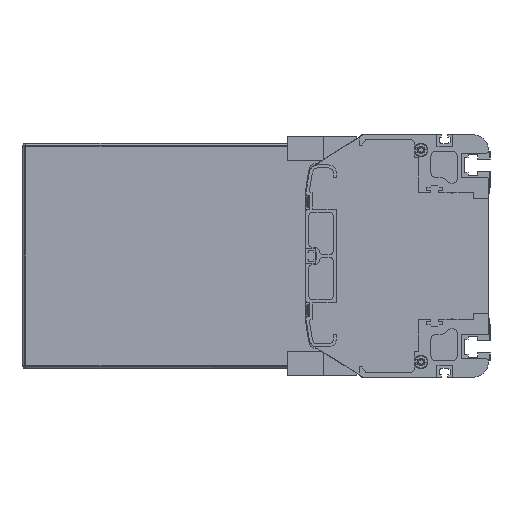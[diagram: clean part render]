
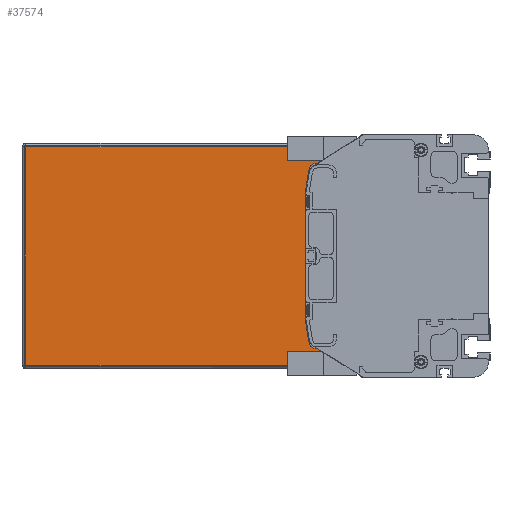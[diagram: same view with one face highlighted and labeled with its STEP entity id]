
A CAD part, left-side view. The second image highlights one B-rep face of the part: STEP entity #37574.
In plain terms, the highlighted planar face has unit normal (-1, 0, 0).
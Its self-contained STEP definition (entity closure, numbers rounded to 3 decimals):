
#586=DIRECTION('',(0.,-1.,0.));
#587=VECTOR('',#586,220.5);
#588=CARTESIAN_POINT('',(1686.5,306.5,-72.));
#589=LINE('',#588,#587);
#6548=DIRECTION('',(0.,-1.,0.));
#6549=VECTOR('',#6548,28.728);
#6550=CARTESIAN_POINT('',(1686.5,114.728,61.));
#6551=LINE('',#6550,#6549);
#6594=DIRECTION('',(0.,1.,0.));
#6595=VECTOR('',#6594,28.728);
#6596=CARTESIAN_POINT('',(1686.5,86.,-61.));
#6597=LINE('',#6596,#6595);
#6607=DIRECTION('',(0.,0.,-1.));
#6608=VECTOR('',#6607,11.);
#6609=CARTESIAN_POINT('',(1686.5,86.,-61.));
#6610=LINE('',#6609,#6608);
#6616=DIRECTION('',(0.,0.,-1.));
#6617=VECTOR('',#6616,11.);
#6618=CARTESIAN_POINT('',(1686.5,86.,72.));
#6619=LINE('',#6618,#6617);
#14441=CARTESIAN_POINT('',(1686.5,114.728,56.));
#14442=DIRECTION('',(-1.,0.,0.));
#14443=DIRECTION('',(0.,0.,1.));
#14444=AXIS2_PLACEMENT_3D('',#14441,#14442,#14443);
#14446=DIRECTION('',(0.,0.156,-0.988));
#14447=VECTOR('',#14446,14.963);
#14448=CARTESIAN_POINT('',(1686.5,119.666,56.78));
#14449=LINE('',#14448,#14447);
#14450=DIRECTION('',(0.,-0.156,-0.988));
#14451=VECTOR('',#14450,14.963);
#14452=CARTESIAN_POINT('',(1686.5,122.,-42.));
#14453=LINE('',#14452,#14451);
#14454=CARTESIAN_POINT('',(1686.5,114.728,-56.));
#14455=DIRECTION('',(-1.,0.,0.));
#14456=DIRECTION('',(0.,0.988,-0.156));
#14457=AXIS2_PLACEMENT_3D('',#14454,#14455,#14456);
#14463=DIRECTION('',(0.,0.,-1.));
#14464=VECTOR('',#14463,144.);
#14465=CARTESIAN_POINT('',(1686.5,306.5,72.));
#14466=LINE('',#14465,#14464);
#14553=DIRECTION('',(0.,1.,0.));
#14554=VECTOR('',#14553,220.5);
#14555=CARTESIAN_POINT('',(1686.5,86.,72.));
#14556=LINE('',#14555,#14554);
#14844=DIRECTION('',(0.,0.,1.));
#14845=VECTOR('',#14844,84.);
#14846=CARTESIAN_POINT('',(1686.5,122.,-42.));
#14847=LINE('',#14846,#14845);
#16183=CARTESIAN_POINT('',(1686.5,306.5,-72.));
#16184=CARTESIAN_POINT('',(1686.5,86.,-72.));
#16185=VERTEX_POINT('',#16183);
#16186=VERTEX_POINT('',#16184);
#16187=CARTESIAN_POINT('',(1686.5,86.,-61.));
#16188=VERTEX_POINT('',#16187);
#16189=CARTESIAN_POINT('',(1686.5,114.728,-61.));
#16190=VERTEX_POINT('',#16189);
#16191=CARTESIAN_POINT('',(1686.5,119.666,-56.78));
#16192=VERTEX_POINT('',#16191);
#16193=CARTESIAN_POINT('',(1686.5,122.,-42.));
#16194=VERTEX_POINT('',#16193);
#16195=CARTESIAN_POINT('',(1686.5,122.,42.));
#16196=VERTEX_POINT('',#16195);
#16197=CARTESIAN_POINT('',(1686.5,119.666,56.78));
#16198=VERTEX_POINT('',#16197);
#16199=CARTESIAN_POINT('',(1686.5,114.728,61.));
#16200=VERTEX_POINT('',#16199);
#16201=CARTESIAN_POINT('',(1686.5,86.,61.));
#16202=VERTEX_POINT('',#16201);
#16203=CARTESIAN_POINT('',(1686.5,86.,72.));
#16204=VERTEX_POINT('',#16203);
#16205=CARTESIAN_POINT('',(1686.5,306.5,72.));
#16206=VERTEX_POINT('',#16205);
#37548=CARTESIAN_POINT('',(1686.5,196.25,0.));
#37549=DIRECTION('',(1.,0.,0.));
#37550=DIRECTION('',(0.,0.,-1.));
#37551=AXIS2_PLACEMENT_3D('',#37548,#37549,#37550);
#37552=PLANE('',#37551);
#37553=ORIENTED_EDGE('',*,*,#20520,.F.);
#37555=ORIENTED_EDGE('',*,*,#37554,.F.);
#37557=ORIENTED_EDGE('',*,*,#37556,.F.);
#37558=ORIENTED_EDGE('',*,*,#26606,.T.);
#37559=ORIENTED_EDGE('',*,*,#26513,.F.);
#37561=ORIENTED_EDGE('',*,*,#37560,.T.);
#37563=ORIENTED_EDGE('',*,*,#37562,.T.);
#37565=ORIENTED_EDGE('',*,*,#37564,.F.);
#37567=ORIENTED_EDGE('',*,*,#37566,.T.);
#37569=ORIENTED_EDGE('',*,*,#37568,.T.);
#37570=ORIENTED_EDGE('',*,*,#26564,.F.);
#37571=ORIENTED_EDGE('',*,*,#26580,.T.);
#37572=EDGE_LOOP('',(#37553,#37555,#37557,#37558,#37559,#37561,#37563,#37565,
#37567,#37569,#37570,#37571));
#37573=FACE_OUTER_BOUND('',#37572,.F.);
#37574=ADVANCED_FACE('',(#37573),#37552,.F.);
#14445=CIRCLE('',#14444,5.);
#14458=CIRCLE('',#14457,5.);
#20520=EDGE_CURVE('',#16185,#16186,#589,.T.);
#26513=EDGE_CURVE('',#16200,#16202,#6551,.T.);
#26564=EDGE_CURVE('',#16188,#16190,#6597,.T.);
#26580=EDGE_CURVE('',#16188,#16186,#6610,.T.);
#26606=EDGE_CURVE('',#16204,#16202,#6619,.T.);
#37554=EDGE_CURVE('',#16206,#16185,#14466,.T.);
#37556=EDGE_CURVE('',#16204,#16206,#14556,.T.);
#37560=EDGE_CURVE('',#16200,#16198,#14445,.T.);
#37562=EDGE_CURVE('',#16198,#16196,#14449,.T.);
#37564=EDGE_CURVE('',#16194,#16196,#14847,.T.);
#37566=EDGE_CURVE('',#16194,#16192,#14453,.T.);
#37568=EDGE_CURVE('',#16192,#16190,#14458,.T.);
